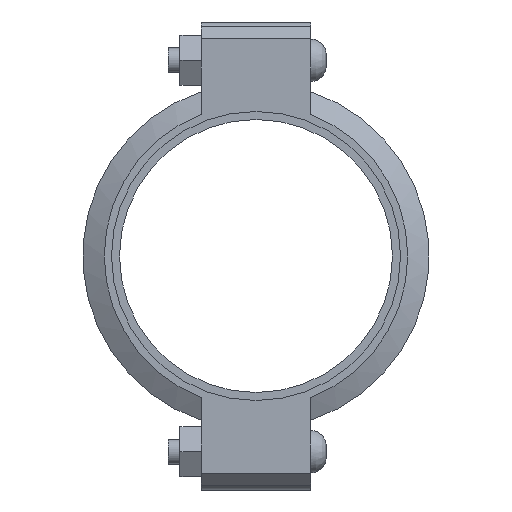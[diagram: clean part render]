
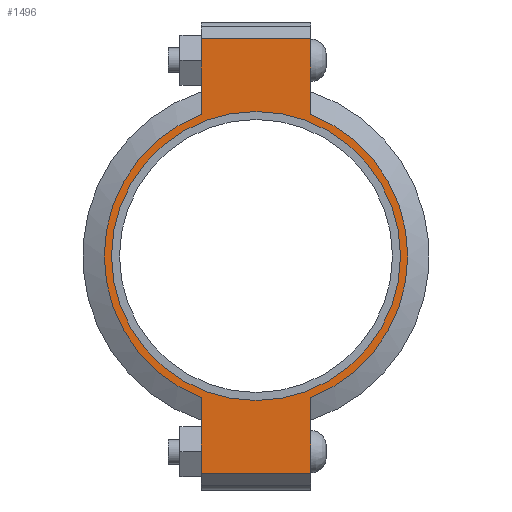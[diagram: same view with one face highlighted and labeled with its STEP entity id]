
A CAD part, left-side view. The second image highlights one B-rep face of the part: STEP entity #1496.
In plain terms, the highlighted planar face has unit normal (-1, 0, 0) as drawn and (0, 0, 1) by its records, which use the part's own axes.
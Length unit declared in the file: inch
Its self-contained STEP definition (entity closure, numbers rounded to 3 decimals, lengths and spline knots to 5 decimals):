
#176=LINE('',#2577,#267);
#184=LINE('',#2613,#275);
#191=LINE('',#2634,#282);
#200=LINE('',#2666,#291);
#201=LINE('',#2670,#292);
#202=LINE('',#2672,#293);
#267=VECTOR('',#2079,0.3937);
#275=VECTOR('',#2095,0.3937);
#282=VECTOR('',#2114,0.3937);
#291=VECTOR('',#2139,0.3937);
#292=VECTOR('',#2144,0.3937);
#293=VECTOR('',#2145,0.3937);
#345=FACE_BOUND('',#505,.T.);
#409=FACE_OUTER_BOUND('',#504,.T.);
#504=EDGE_LOOP('',(#1231,#1232,#1233,#1234,#1235,#1236,#1237,#1238));
#505=EDGE_LOOP('',(#1239));
#602=CIRCLE('',#1739,4.53);
#603=CIRCLE('',#1740,4.53);
#604=CIRCLE('',#1741,4.3125);
#707=VERTEX_POINT('',#2574);
#708=VERTEX_POINT('',#2576);
#719=VERTEX_POINT('',#2608);
#720=VERTEX_POINT('',#2612);
#727=VERTEX_POINT('',#2631);
#728=VERTEX_POINT('',#2633);
#738=VERTEX_POINT('',#2669);
#739=VERTEX_POINT('',#2671);
#740=VERTEX_POINT('',#2674);
#871=EDGE_CURVE('',#708,#707,#176,.T.);
#885=EDGE_CURVE('',#720,#719,#184,.T.);
#895=EDGE_CURVE('',#728,#727,#191,.T.);
#910=EDGE_CURVE('',#720,#707,#200,.T.);
#911=EDGE_CURVE('',#719,#728,#602,.T.);
#912=EDGE_CURVE('',#738,#727,#201,.T.);
#913=EDGE_CURVE('',#738,#739,#202,.T.);
#914=EDGE_CURVE('',#739,#708,#603,.T.);
#915=EDGE_CURVE('',#740,#740,#604,.T.);
#1231=ORIENTED_EDGE('',*,*,#910,.F.);
#1232=ORIENTED_EDGE('',*,*,#885,.T.);
#1233=ORIENTED_EDGE('',*,*,#911,.T.);
#1234=ORIENTED_EDGE('',*,*,#895,.T.);
#1235=ORIENTED_EDGE('',*,*,#912,.F.);
#1236=ORIENTED_EDGE('',*,*,#913,.T.);
#1237=ORIENTED_EDGE('',*,*,#914,.T.);
#1238=ORIENTED_EDGE('',*,*,#871,.T.);
#1239=ORIENTED_EDGE('',*,*,#915,.T.);
#1350=PLANE('',#1738);
#1496=ADVANCED_FACE('',(#409,#345),#1350,.T.);
#1738=AXIS2_PLACEMENT_3D('',#2667,#2140,#2141);
#1739=AXIS2_PLACEMENT_3D('',#2668,#2142,#2143);
#1740=AXIS2_PLACEMENT_3D('',#2673,#2146,#2147);
#1741=AXIS2_PLACEMENT_3D('',#2675,#2148,#2149);
#2079=DIRECTION('',(-1.,0.,0.));
#2095=DIRECTION('',(1.,0.,0.));
#2114=DIRECTION('',(1.,0.,0.));
#2139=DIRECTION('',(0.,1.,0.));
#2140=DIRECTION('center_axis',(0.,0.,1.));
#2141=DIRECTION('ref_axis',(1.,0.,0.));
#2142=DIRECTION('center_axis',(0.,0.,1.));
#2143=DIRECTION('ref_axis',(-1.,0.,0.));
#2144=DIRECTION('',(0.,-1.,0.));
#2145=DIRECTION('',(-1.,0.,0.));
#2146=DIRECTION('center_axis',(0.,0.,1.));
#2147=DIRECTION('ref_axis',(-1.,0.,0.));
#2148=DIRECTION('center_axis',(0.,0.,-1.));
#2149=DIRECTION('ref_axis',(-1.,0.,0.));
#2574=CARTESIAN_POINT('',(-6.485,1.63,1.16));
#2576=CARTESIAN_POINT('',(-4.22658,1.63,1.16));
#2577=CARTESIAN_POINT('',(-6.985,1.63,1.16));
#2608=CARTESIAN_POINT('',(-4.22658,-1.63,1.16));
#2612=CARTESIAN_POINT('',(-6.485,-1.63,1.16));
#2613=CARTESIAN_POINT('',(6.985,-1.63,1.16));
#2631=CARTESIAN_POINT('',(6.485,-1.63,1.16));
#2633=CARTESIAN_POINT('',(4.22658,-1.63,1.16));
#2634=CARTESIAN_POINT('',(6.985,-1.63,1.16));
#2666=CARTESIAN_POINT('',(-6.485,0.815,1.16));
#2667=CARTESIAN_POINT('Origin',(0.,0.,
1.16));
#2668=CARTESIAN_POINT('Origin',(0.,0.,1.16));
#2669=CARTESIAN_POINT('',(6.485,1.63,1.16));
#2670=CARTESIAN_POINT('',(6.485,-0.815,1.16));
#2671=CARTESIAN_POINT('',(4.22658,1.63,1.16));
#2672=CARTESIAN_POINT('',(-6.985,1.63,1.16));
#2673=CARTESIAN_POINT('Origin',(0.,0.,1.16));
#2674=CARTESIAN_POINT('',(4.3125,0.,1.16));
#2675=CARTESIAN_POINT('Origin',(0.,0.,1.16));
